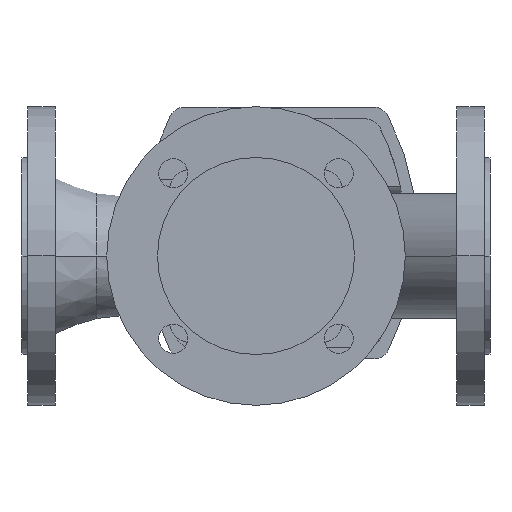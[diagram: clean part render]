
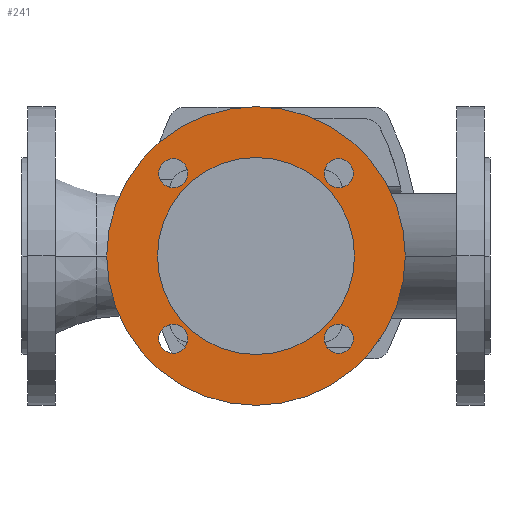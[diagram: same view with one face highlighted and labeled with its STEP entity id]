
A CAD part, front view. The second image highlights one B-rep face of the part: STEP entity #241.
In plain terms, the highlighted planar face has unit normal (0, -1, 0).
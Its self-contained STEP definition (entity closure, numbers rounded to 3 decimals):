
#241 = ADVANCED_FACE( '', ( #637, #638, #639, #640, #641, #642 ), #643, .F. );
#637 = FACE_BOUND( '', #1203, .T. );
#638 = FACE_BOUND( '', #1204, .T. );
#639 = FACE_BOUND( '', #1205, .T. );
#640 = FACE_BOUND( '', #1206, .T. );
#641 = FACE_OUTER_BOUND( '', #1207, .T. );
#642 = FACE_BOUND( '', #1208, .T. );
#643 = PLANE( '', #1209 );
#1203 = EDGE_LOOP( '', ( #2422, #2423 ) );
#1204 = EDGE_LOOP( '', ( #2424, #2425 ) );
#1205 = EDGE_LOOP( '', ( #2426, #2427 ) );
#1206 = EDGE_LOOP( '', ( #2428, #2429 ) );
#1207 = EDGE_LOOP( '', ( #2430, #2431 ) );
#1208 = EDGE_LOOP( '', ( #2432, #2433 ) );
#1209 = AXIS2_PLACEMENT_3D( '', #2434, #2435, #2436 );
#2422 = ORIENTED_EDGE( '', *, *, #3781, .T. );
#2423 = ORIENTED_EDGE( '', *, *, #3782, .T. );
#2424 = ORIENTED_EDGE( '', *, *, #3777, .T. );
#2425 = ORIENTED_EDGE( '', *, *, #3784, .T. );
#2426 = ORIENTED_EDGE( '', *, *, #3773, .T. );
#2427 = ORIENTED_EDGE( '', *, *, #3786, .T. );
#2428 = ORIENTED_EDGE( '', *, *, #3769, .T. );
#2429 = ORIENTED_EDGE( '', *, *, #3788, .T. );
#2430 = ORIENTED_EDGE( '', *, *, #3679, .F. );
#2431 = ORIENTED_EDGE( '', *, *, #3944, .F. );
#2432 = ORIENTED_EDGE( '', *, *, #3650, .F. );
#2433 = ORIENTED_EDGE( '', *, *, #3945, .F. );
#2434 = CARTESIAN_POINT( '', ( 145., -116.5, 0. ) );
#2435 = DIRECTION( '', ( 0., 1., 0. ) );
#2436 = DIRECTION( '', ( 0., 0., 1. ) );
#3650 = EDGE_CURVE( '', #4343, #4339, #4345, .T. );
#3679 = EDGE_CURVE( '', #4394, #4397, #4398, .T. );
#3769 = EDGE_CURVE( '', #4564, #4568, #4570, .T. );
#3773 = EDGE_CURVE( '', #4572, #4576, #4578, .T. );
#3777 = EDGE_CURVE( '', #4580, #4584, #4586, .T. );
#3781 = EDGE_CURVE( '', #4588, #4592, #4594, .T. );
#3782 = EDGE_CURVE( '', #4592, #4588, #4595, .T. );
#3784 = EDGE_CURVE( '', #4584, #4580, #4597, .T. );
#3786 = EDGE_CURVE( '', #4576, #4572, #4599, .T. );
#3788 = EDGE_CURVE( '', #4568, #4564, #4601, .T. );
#3944 = EDGE_CURVE( '', #4397, #4394, #4833, .T. );
#3945 = EDGE_CURVE( '', #4339, #4343, #4834, .T. );
#4339 = VERTEX_POINT( '', #5523 );
#4343 = VERTEX_POINT( '', #5528 );
#4345 = CIRCLE( '', #5531, 61. );
#4394 = VERTEX_POINT( '', #5653 );
#4397 = VERTEX_POINT( '', #5657 );
#4398 = CIRCLE( '', #5658, 92.5 );
#4564 = VERTEX_POINT( '', #5949 );
#4568 = VERTEX_POINT( '', #5954 );
#4570 = CIRCLE( '', #5957, 9. );
#4572 = VERTEX_POINT( '', #5959 );
#4576 = VERTEX_POINT( '', #5964 );
#4578 = CIRCLE( '', #5967, 9. );
#4580 = VERTEX_POINT( '', #5969 );
#4584 = VERTEX_POINT( '', #5974 );
#4586 = CIRCLE( '', #5977, 9. );
#4588 = VERTEX_POINT( '', #5979 );
#4592 = VERTEX_POINT( '', #5984 );
#4594 = CIRCLE( '', #5987, 9. );
#4595 = CIRCLE( '', #5988, 9. );
#4597 = CIRCLE( '', #5990, 9. );
#4599 = CIRCLE( '', #5992, 9. );
#4601 = CIRCLE( '', #5994, 9. );
#4833 = CIRCLE( '', #6398, 92.5 );
#4834 = CIRCLE( '', #6399, 61. );
#5523 = CARTESIAN_POINT( '', ( 206., -116.5, 0. ) );
#5528 = CARTESIAN_POINT( '', ( 84., -116.5, 0. ) );
#5531 = AXIS2_PLACEMENT_3D( '', #7283, #7284, #7285 );
#5653 = CARTESIAN_POINT( '', ( 237.5, -116.5, 0. ) );
#5657 = CARTESIAN_POINT( '', ( 52.5, -116.5, 0. ) );
#5658 = AXIS2_PLACEMENT_3D( '', #7337, #7338, #7339 );
#5949 = CARTESIAN_POINT( '', ( 84.735, -116.5, -51.265 ) );
#5954 = CARTESIAN_POINT( '', ( 102.735, -116.5, -51.265 ) );
#5957 = AXIS2_PLACEMENT_3D( '', #7517, #7518, #7519 );
#5959 = CARTESIAN_POINT( '', ( 84.735, -116.5, 51.265 ) );
#5964 = CARTESIAN_POINT( '', ( 102.735, -116.5, 51.265 ) );
#5967 = AXIS2_PLACEMENT_3D( '', #7525, #7526, #7527 );
#5969 = CARTESIAN_POINT( '', ( 187.265, -116.5, 51.265 ) );
#5974 = CARTESIAN_POINT( '', ( 205.265, -116.5, 51.265 ) );
#5977 = AXIS2_PLACEMENT_3D( '', #7533, #7534, #7535 );
#5979 = CARTESIAN_POINT( '', ( 187.265, -116.5, -51.265 ) );
#5984 = CARTESIAN_POINT( '', ( 205.265, -116.5, -51.265 ) );
#5987 = AXIS2_PLACEMENT_3D( '', #7541, #7542, #7543 );
#5988 = AXIS2_PLACEMENT_3D( '', #7544, #7545, #7546 );
#5990 = AXIS2_PLACEMENT_3D( '', #7550, #7551, #7552 );
#5992 = AXIS2_PLACEMENT_3D( '', #7556, #7557, #7558 );
#5994 = AXIS2_PLACEMENT_3D( '', #7562, #7563, #7564 );
#6398 = AXIS2_PLACEMENT_3D( '', #7842, #7843, #7844 );
#6399 = AXIS2_PLACEMENT_3D( '', #7845, #7846, #7847 );
#7283 = CARTESIAN_POINT( '', ( 145., -116.5, 0. ) );
#7284 = DIRECTION( '', ( 0., -1., 0. ) );
#7285 = DIRECTION( '', ( 1., 0., 0. ) );
#7337 = CARTESIAN_POINT( '', ( 145., -116.5, 0. ) );
#7338 = DIRECTION( '', ( 0., 1., 0. ) );
#7339 = DIRECTION( '', ( 1., 0., 0. ) );
#7517 = CARTESIAN_POINT( '', ( 93.735, -116.5, -51.265 ) );
#7518 = DIRECTION( '', ( 0., 1., 0. ) );
#7519 = DIRECTION( '', ( -1., 0., 0. ) );
#7525 = CARTESIAN_POINT( '', ( 93.735, -116.5, 51.265 ) );
#7526 = DIRECTION( '', ( 0., 1., 0. ) );
#7527 = DIRECTION( '', ( -1., 0., 0. ) );
#7533 = CARTESIAN_POINT( '', ( 196.265, -116.5, 51.265 ) );
#7534 = DIRECTION( '', ( 0., 1., 0. ) );
#7535 = DIRECTION( '', ( -1., 0., 0. ) );
#7541 = CARTESIAN_POINT( '', ( 196.265, -116.5, -51.265 ) );
#7542 = DIRECTION( '', ( 0., 1., 0. ) );
#7543 = DIRECTION( '', ( -1., 0., 0. ) );
#7544 = CARTESIAN_POINT( '', ( 196.265, -116.5, -51.265 ) );
#7545 = DIRECTION( '', ( 0., 1., 0. ) );
#7546 = DIRECTION( '', ( -1., 0., 0. ) );
#7550 = CARTESIAN_POINT( '', ( 196.265, -116.5, 51.265 ) );
#7551 = DIRECTION( '', ( 0., 1., 0. ) );
#7552 = DIRECTION( '', ( -1., 0., 0. ) );
#7556 = CARTESIAN_POINT( '', ( 93.735, -116.5, 51.265 ) );
#7557 = DIRECTION( '', ( 0., 1., 0. ) );
#7558 = DIRECTION( '', ( -1., 0., 0. ) );
#7562 = CARTESIAN_POINT( '', ( 93.735, -116.5, -51.265 ) );
#7563 = DIRECTION( '', ( 0., 1., 0. ) );
#7564 = DIRECTION( '', ( -1., 0., 0. ) );
#7842 = CARTESIAN_POINT( '', ( 145., -116.5, 0. ) );
#7843 = DIRECTION( '', ( 0., 1., 0. ) );
#7844 = DIRECTION( '', ( 1., 0., 0. ) );
#7845 = CARTESIAN_POINT( '', ( 145., -116.5, 0. ) );
#7846 = DIRECTION( '', ( 0., -1., 0. ) );
#7847 = DIRECTION( '', ( 1., 0., 0. ) );
